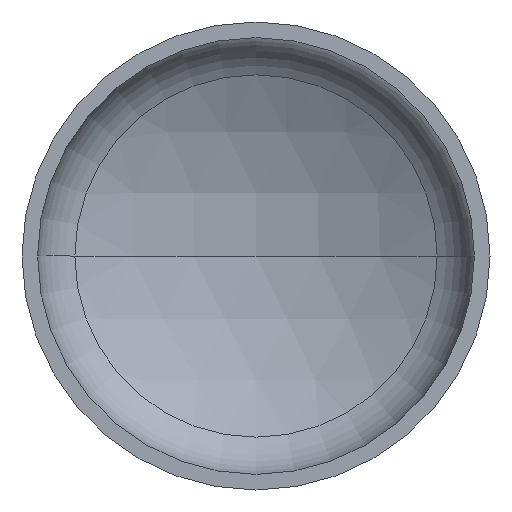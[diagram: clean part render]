
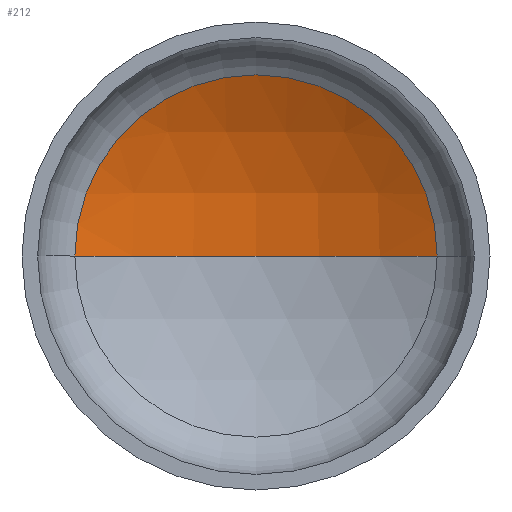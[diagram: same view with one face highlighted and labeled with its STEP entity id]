
A CAD part, front view. The second image highlights one B-rep face of the part: STEP entity #212.
In plain terms, the highlighted spherical face has radius 1920 mm.
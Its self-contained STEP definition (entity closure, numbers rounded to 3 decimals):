
#6 = VERTEX_POINT ( 'NONE', #350 ) ;
#17 = AXIS2_PLACEMENT_3D ( 'NONE', #337, #287, #155 ) ;
#22 = AXIS2_PLACEMENT_3D ( 'NONE', #361, #384, #214 ) ;
#27 = AXIS2_PLACEMENT_3D ( 'NONE', #97, #363, #194 ) ;
#39 = AXIS2_PLACEMENT_3D ( 'NONE', #195, #218, #216 ) ;
#41 = ORIENTED_EDGE ( 'NONE', *, *, #321, .T. ) ;
#49 = VERTEX_POINT ( 'NONE', #228 ) ;
#51 = ORIENTED_EDGE ( 'NONE', *, *, #329, .F. ) ;
#97 = CARTESIAN_POINT ( 'NONE',  ( 0., 443.802, 0. ) ) ;
#108 = VERTEX_POINT ( 'NONE', #294 ) ;
#111 = EDGE_LOOP ( 'NONE', ( #51, #41, #157 ) ) ;
#122 = FACE_OUTER_BOUND ( 'NONE', #111, .T. ) ;
#155 = DIRECTION ( 'NONE',  ( 1., 0., 0. ) ) ;
#157 = ORIENTED_EDGE ( 'NONE', *, *, #315, .T. ) ;
#168 = CIRCLE ( 'NONE', #22, 1920. ) ;
#194 = DIRECTION ( 'NONE',  ( 1., 0., 0. ) ) ;
#195 = CARTESIAN_POINT ( 'NONE',  ( 0., -1236.466, 0. ) ) ;
#212 = ADVANCED_FACE ( 'NONE', ( #122 ), #370, .F. ) ;
#214 = DIRECTION ( 'NONE',  ( -1., 0., 0. ) ) ;
#216 = DIRECTION ( 'NONE',  ( -1., 0., 0. ) ) ;
#218 = DIRECTION ( 'NONE',  ( 0., 0., -1. ) ) ;
#228 = CARTESIAN_POINT ( 'NONE',  ( -929.032, 443.802, 0. ) ) ;
#275 = CIRCLE ( 'NONE', #17, 1920. ) ;
#287 = DIRECTION ( 'NONE',  ( 0., 0., 1. ) ) ;
#294 = CARTESIAN_POINT ( 'NONE',  ( 0., 683.534, 0. ) ) ;
#315 = EDGE_CURVE ( 'NONE', #6, #49, #411, .T. ) ;
#321 = EDGE_CURVE ( 'NONE', #108, #6, #168, .T. ) ;
#329 = EDGE_CURVE ( 'NONE', #108, #49, #275, .T. ) ;
#337 = CARTESIAN_POINT ( 'NONE',  ( 0., -1236.466, 0. ) ) ;
#350 = CARTESIAN_POINT ( 'NONE',  ( 929.032, 443.802, 0. ) ) ;
#361 = CARTESIAN_POINT ( 'NONE',  ( 0., -1236.466, 0. ) ) ;
#363 = DIRECTION ( 'NONE',  ( 0., -1., 0. ) ) ;
#370 = SPHERICAL_SURFACE ( 'NONE', #39, 1920. ) ;
#384 = DIRECTION ( 'NONE',  ( 0., 0., -1. ) ) ;
#411 = CIRCLE ( 'NONE', #27, 929.032 ) ;
